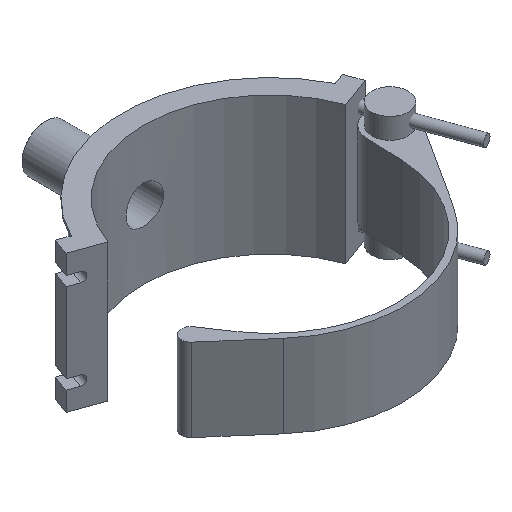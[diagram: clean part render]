
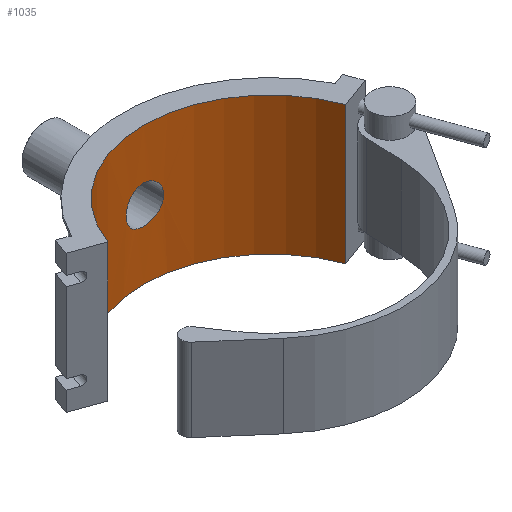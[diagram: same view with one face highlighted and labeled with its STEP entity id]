
A CAD part, isometric view. The second image highlights one B-rep face of the part: STEP entity #1035.
In plain terms, the highlighted cylindrical face has radius 161.7 mm (diameter 323.4 mm), a partial arc.
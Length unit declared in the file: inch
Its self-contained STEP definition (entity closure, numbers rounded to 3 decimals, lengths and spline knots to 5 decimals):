
#28=FACE_BOUND('',#177,.T.);
#45=B_SPLINE_CURVE_WITH_KNOTS('',3,(#1814,#1815,#1816,#1817,#1818,#1819,
#1820,#1821,#1822,#1823,#1824,#1825,#1826,#1827,#1828,#1829,#1830,#1831,
#1832,#1833,#1834,#1835,#1836,#1837,#1838,#1839,#1840,#1841,#1842,#1843,
#1844,#1845,#1846,#1847,#1848,#1849,#1850,#1851,#1852,#1853,#1854,#1855,
#1856,#1857,#1858,#1859,#1860,#1861,#1862,#1863,#1864,#1865,#1866,#1867,
#1868,#1869,#1870,#1871,#1872,#1873,#1874,#1875,#1876,#1877,#1878,#1879),
 .UNSPECIFIED.,.T.,.F.,(4,2,2,2,2,2,2,2,2,2,2,2,2,2,2,2,2,2,2,2,2,2,2,2,
2,2,2,2,2,2,2,2,4),(0.,0.4535,0.90701,1.36051,
1.81402,2.26751,2.72101,3.17451,3.628,
4.0815,4.535,4.98849,5.44199,5.89549,
6.349,6.8025,7.256,7.70951,8.16301,
8.61652,9.07002,9.52352,9.97701,10.43051,
10.88401,11.3375,11.791,12.2445,12.69799,
13.1515,13.605,14.0585,14.51201),
 .UNSPECIFIED.);
#108=FACE_OUTER_BOUND('',#176,.T.);
#176=EDGE_LOOP('',(#818,#819,#820,#821));
#177=EDGE_LOOP('',(#822));
#274=LINE('',#1800,#354);
#277=LINE('',#1808,#357);
#354=VECTOR('',#1321,0.3937);
#357=VECTOR('',#1332,0.3937);
#399=CIRCLE('',#1119,6.36614);
#402=CIRCLE('',#1134,6.36614);
#479=VERTEX_POINT('',#1759);
#481=VERTEX_POINT('',#1763);
#491=VERTEX_POINT('',#1798);
#492=VERTEX_POINT('',#1807);
#493=VERTEX_POINT('',#1813);
#591=EDGE_CURVE('',#481,#479,#399,.T.);
#609=EDGE_CURVE('',#481,#491,#274,.T.);
#612=EDGE_CURVE('',#492,#479,#277,.T.);
#614=EDGE_CURVE('',#492,#491,#402,.T.);
#615=EDGE_CURVE('',#493,#493,#45,.T.);
#818=ORIENTED_EDGE('',*,*,#612,.T.);
#819=ORIENTED_EDGE('',*,*,#591,.F.);
#820=ORIENTED_EDGE('',*,*,#609,.T.);
#821=ORIENTED_EDGE('',*,*,#614,.F.);
#822=ORIENTED_EDGE('',*,*,#615,.T.);
#995=CYLINDRICAL_SURFACE('',#1135,6.36614);
#1035=ADVANCED_FACE('',(#108,#28),#995,.F.);
#1119=AXIS2_PLACEMENT_3D('',#1765,#1286,#1287);
#1134=AXIS2_PLACEMENT_3D('',#1811,#1336,#1337);
#1135=AXIS2_PLACEMENT_3D('',#1812,#1338,#1339);
#1286=DIRECTION('center_axis',(0.,0.,-1.));
#1287=DIRECTION('ref_axis',(-1.,0.,0.));
#1321=DIRECTION('',(0.,0.,-1.));
#1332=DIRECTION('',(0.,0.,1.));
#1336=DIRECTION('center_axis',(0.,0.,1.));
#1337=DIRECTION('ref_axis',(-1.,0.,0.));
#1338=DIRECTION('center_axis',(0.,0.,1.));
#1339=DIRECTION('ref_axis',(-1.,0.,0.));
#1759=CARTESIAN_POINT('',(5.98222,2.17735,3.465));
#1763=CARTESIAN_POINT('',(-5.98222,2.17735,3.465));
#1765=CARTESIAN_POINT('Origin',(0.,0.,3.465));
#1798=CARTESIAN_POINT('',(-5.98222,2.17735,-3.465));
#1800=CARTESIAN_POINT('',(-5.98222,2.17735,0.));
#1807=CARTESIAN_POINT('',(5.98222,2.17735,-3.465));
#1808=CARTESIAN_POINT('',(5.98222,2.17735,0.));
#1811=CARTESIAN_POINT('Origin',(0.,0.,-3.465));
#1812=CARTESIAN_POINT('Origin',(0.,0.,0.));
#1813=CARTESIAN_POINT('',(0.94646,6.29539,0.));
#1814=CARTESIAN_POINT('Ctrl Pts',(0.94646,6.29539,0.));
#1815=CARTESIAN_POINT('Ctrl Pts',(0.94646,6.29539,-0.05951));
#1816=CARTESIAN_POINT('Ctrl Pts',(0.94075,6.29626,-0.12103));
#1817=CARTESIAN_POINT('Ctrl Pts',(0.91676,6.2998,-0.24335));
#1818=CARTESIAN_POINT('Ctrl Pts',(0.89847,6.30247,-0.30415));
#1819=CARTESIAN_POINT('Ctrl Pts',(0.85015,6.30917,-0.42072));
#1820=CARTESIAN_POINT('Ctrl Pts',(0.82008,6.3132,-0.47658));
#1821=CARTESIAN_POINT('Ctrl Pts',(0.75061,6.32183,-0.57986));
#1822=CARTESIAN_POINT('Ctrl Pts',(0.71121,6.32643,-0.62728));
#1823=CARTESIAN_POINT('Ctrl Pts',(0.62728,6.3353,-0.71121));
#1824=CARTESIAN_POINT('Ctrl Pts',(0.57986,6.33989,-0.75061));
#1825=CARTESIAN_POINT('Ctrl Pts',(0.47658,6.34849,-0.82007));
#1826=CARTESIAN_POINT('Ctrl Pts',(0.42072,6.35249,-0.85015));
#1827=CARTESIAN_POINT('Ctrl Pts',(0.30415,6.35914,-0.89847));
#1828=CARTESIAN_POINT('Ctrl Pts',(0.24335,6.36178,-0.91676));
#1829=CARTESIAN_POINT('Ctrl Pts',(0.12103,6.36529,-0.94075));
#1830=CARTESIAN_POINT('Ctrl Pts',(0.05951,6.36614,-0.94646));
#1831=CARTESIAN_POINT('Ctrl Pts',(-0.05951,6.36614,
-0.94646));
#1832=CARTESIAN_POINT('Ctrl Pts',(-0.12103,6.36529,-0.94075));
#1833=CARTESIAN_POINT('Ctrl Pts',(-0.24335,6.36178,-0.91676));
#1834=CARTESIAN_POINT('Ctrl Pts',(-0.30415,6.35914,-0.89847));
#1835=CARTESIAN_POINT('Ctrl Pts',(-0.42072,6.35249,-0.85015));
#1836=CARTESIAN_POINT('Ctrl Pts',(-0.47658,6.34849,-0.82007));
#1837=CARTESIAN_POINT('Ctrl Pts',(-0.57986,6.33989,-0.75061));
#1838=CARTESIAN_POINT('Ctrl Pts',(-0.62728,6.3353,-0.71121));
#1839=CARTESIAN_POINT('Ctrl Pts',(-0.71121,6.32643,-0.62728));
#1840=CARTESIAN_POINT('Ctrl Pts',(-0.75061,6.32183,-0.57986));
#1841=CARTESIAN_POINT('Ctrl Pts',(-0.82008,6.3132,-0.47658));
#1842=CARTESIAN_POINT('Ctrl Pts',(-0.85015,6.30917,-0.42072));
#1843=CARTESIAN_POINT('Ctrl Pts',(-0.89847,6.30247,-0.30415));
#1844=CARTESIAN_POINT('Ctrl Pts',(-0.91676,6.2998,-0.24335));
#1845=CARTESIAN_POINT('Ctrl Pts',(-0.94075,6.29626,-0.12103));
#1846=CARTESIAN_POINT('Ctrl Pts',(-0.94646,6.29539,-0.05951));
#1847=CARTESIAN_POINT('Ctrl Pts',(-0.94646,6.29539,0.05951));
#1848=CARTESIAN_POINT('Ctrl Pts',(-0.94075,6.29626,0.12103));
#1849=CARTESIAN_POINT('Ctrl Pts',(-0.91676,6.2998,0.24335));
#1850=CARTESIAN_POINT('Ctrl Pts',(-0.89847,6.30247,0.30415));
#1851=CARTESIAN_POINT('Ctrl Pts',(-0.85015,6.30917,0.42072));
#1852=CARTESIAN_POINT('Ctrl Pts',(-0.82008,6.3132,0.47658));
#1853=CARTESIAN_POINT('Ctrl Pts',(-0.75061,6.32183,0.57986));
#1854=CARTESIAN_POINT('Ctrl Pts',(-0.71121,6.32643,0.62728));
#1855=CARTESIAN_POINT('Ctrl Pts',(-0.62728,6.3353,0.71121));
#1856=CARTESIAN_POINT('Ctrl Pts',(-0.57986,6.33989,0.75061));
#1857=CARTESIAN_POINT('Ctrl Pts',(-0.47658,6.34849,0.82007));
#1858=CARTESIAN_POINT('Ctrl Pts',(-0.42072,6.35249,0.85015));
#1859=CARTESIAN_POINT('Ctrl Pts',(-0.30415,6.35914,0.89847));
#1860=CARTESIAN_POINT('Ctrl Pts',(-0.24335,6.36178,0.91676));
#1861=CARTESIAN_POINT('Ctrl Pts',(-0.12103,6.36529,0.94075));
#1862=CARTESIAN_POINT('Ctrl Pts',(-0.05951,6.36614,
0.94646));
#1863=CARTESIAN_POINT('Ctrl Pts',(0.05951,6.36614,0.94646));
#1864=CARTESIAN_POINT('Ctrl Pts',(0.12103,6.36529,0.94075));
#1865=CARTESIAN_POINT('Ctrl Pts',(0.24335,6.36178,0.91676));
#1866=CARTESIAN_POINT('Ctrl Pts',(0.30415,6.35914,0.89847));
#1867=CARTESIAN_POINT('Ctrl Pts',(0.42072,6.35249,0.85015));
#1868=CARTESIAN_POINT('Ctrl Pts',(0.47658,6.34849,0.82007));
#1869=CARTESIAN_POINT('Ctrl Pts',(0.57986,6.33989,0.75061));
#1870=CARTESIAN_POINT('Ctrl Pts',(0.62728,6.3353,0.71121));
#1871=CARTESIAN_POINT('Ctrl Pts',(0.71121,6.32643,0.62728));
#1872=CARTESIAN_POINT('Ctrl Pts',(0.75061,6.32183,0.57986));
#1873=CARTESIAN_POINT('Ctrl Pts',(0.82008,6.3132,0.47658));
#1874=CARTESIAN_POINT('Ctrl Pts',(0.85015,6.30917,0.42072));
#1875=CARTESIAN_POINT('Ctrl Pts',(0.89847,6.30247,0.30415));
#1876=CARTESIAN_POINT('Ctrl Pts',(0.91676,6.2998,0.24335));
#1877=CARTESIAN_POINT('Ctrl Pts',(0.94075,6.29626,0.12103));
#1878=CARTESIAN_POINT('Ctrl Pts',(0.94646,6.29539,0.05951));
#1879=CARTESIAN_POINT('Ctrl Pts',(0.94646,6.29539,0.));
